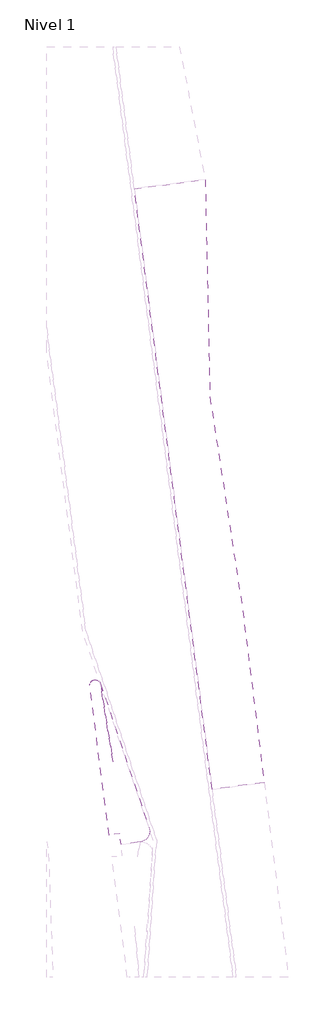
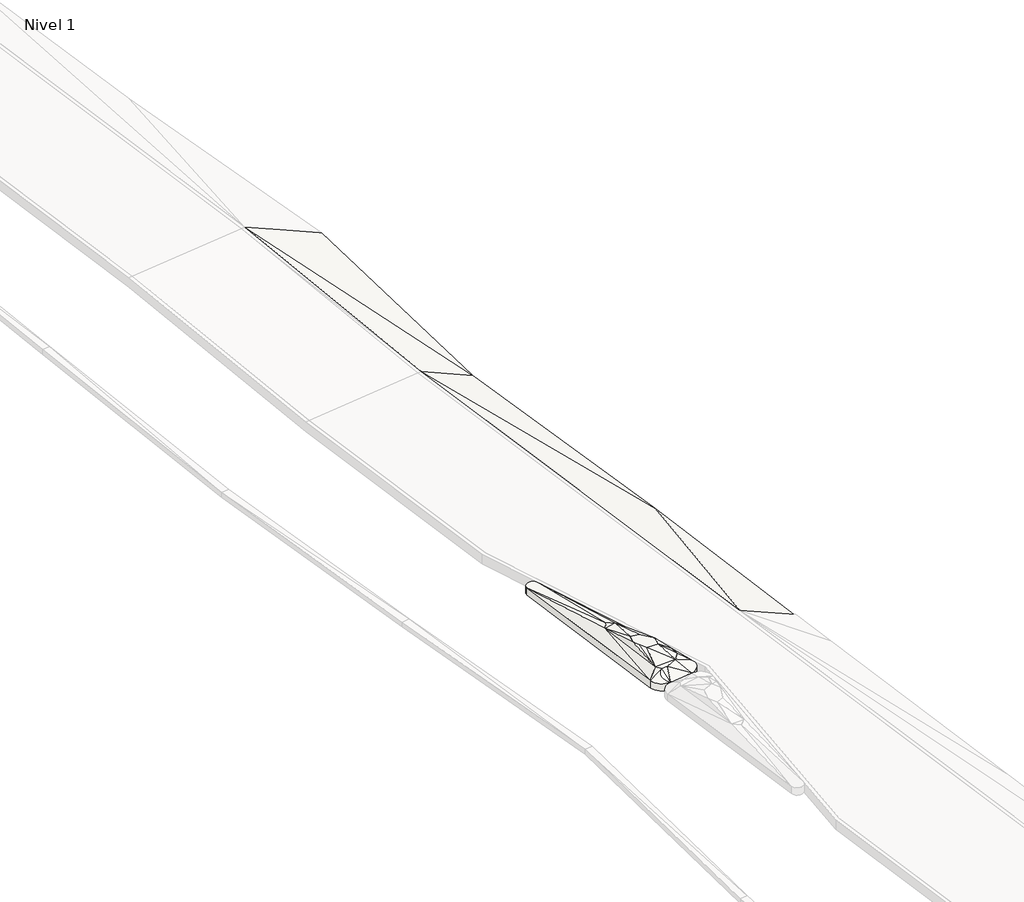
# One storey, part 31 of 45: 2 slabs.
"""IFC4 building model written with IfcOpenShell, lengths in millimetres."""

import ifcopenshell
import ifcopenshell.guid

model = None  # the IFC model being written
_history = None  # IfcOwnerHistory: only IFC2X3 demands one
_inside = {}  # id of a spatial element -> (the spatial element, [elements in it])
_under = {}  # id of a project, library or spatial element -> (it, [spatial elements below it])
_declared = {}  # id of a project -> (the project, [libraries it declares])
_typed = {}  # id of a type object -> (the type object, [elements of that type])
_made_of = {}  # id of a material, layer set ... -> (it, [elements and type objects made of it])


def new_model(schema):
    """Start an empty IFC model of exactly this schema.

    Asked for "IFC4X3", IfcOpenShell would pick the latest addendum, in which some entities
    have other attributes; the version numbers below select the first issue.
    IFC2X3 requires an IfcOwnerHistory on every rooted entity: one is made here for all.
    """
    global model, _history
    if schema == "IFC4X3":
        model = ifcopenshell.file(schema_version=(4, 3, 0, 0))
    else:
        model = ifcopenshell.file(schema=schema)
    _inside.clear()
    _under.clear()
    _declared.clear()
    _typed.clear()
    _made_of.clear()
    _history = None
    if model.schema == "IFC2X3":
        org = make("IfcOrganization", Name="unknown")
        user = make(
            "IfcPersonAndOrganization",
            ThePerson=make("IfcPerson", FamilyName="unknown"),
            TheOrganization=org,
        )
        app = make(
            "IfcApplication",
            ApplicationDeveloper=org,
            Version="unknown",
            ApplicationFullName="unknown",
            ApplicationIdentifier="unknown",
        )
        _history = make(
            "IfcOwnerHistory",
            OwningUser=user,
            OwningApplication=app,
            ChangeAction="ADDED",
            CreationDate=0,
        )
    return model


def make(cls, **values):
    """One entity of the class cls with the attributes given. An attribute that is None is left unset."""
    return model.create_entity(
        cls, **{name: value for name, value in values.items() if value is not None}
    )


def rooted(cls, **values):
    """An entity with a GlobalId (a new one), such as an element, a storey or a relation."""
    return make(cls, GlobalId=ifcopenshell.guid.new(), OwnerHistory=_history, **values)


def si_unit(unit_type, name, prefix=None):
    """IfcSIUnit, for example si_unit("LENGTHUNIT", "METRE", prefix="MILLI")."""
    return make("IfcSIUnit", UnitType=unit_type, Prefix=prefix, Name=name)


def assignment(units):
    """IfcUnitAssignment: the units of a project."""
    return None if units is None else make("IfcUnitAssignment", Units=units)


def point(xyz):
    """IfcCartesianPoint."""
    return None if xyz is None else make("IfcCartesianPoint", Coordinates=xyz)


def direction(xyz):
    """IfcDirection."""
    return None if xyz is None else make("IfcDirection", DirectionRatios=xyz)


def frame(location, z_axis=None, x_axis=None):
    """IfcAxis2Placement3D, a coordinate frame: its origin and axes. An axis left out is left unset."""
    return make(
        "IfcAxis2Placement3D",
        Location=point(location),
        Axis=direction(z_axis),
        RefDirection=direction(x_axis),
    )


def origin():
    """The frame at (0, 0, 0) with its axes left unset."""
    return frame((0.0, 0.0, 0.0))


def place(relative_to, where):
    """IfcLocalPlacement: puts the frame where relative to a parent placement (None: the world)."""
    return make(
        "IfcLocalPlacement", PlacementRelTo=relative_to, RelativePlacement=where
    )


def context(
    kind, dimensions, precision=None, world=None, true_north=None, identifier=None
):
    """IfcGeometricRepresentationContext, for example the 3D "Model" context."""
    return make(
        "IfcGeometricRepresentationContext",
        ContextIdentifier=identifier,
        ContextType=kind,
        CoordinateSpaceDimension=dimensions,
        Precision=precision,
        WorldCoordinateSystem=world,
        TrueNorth=true_north,
    )


def project(units=None, contexts=None):
    """IfcProject with its units and contexts."""
    return rooted(
        "IfcProject",
        Name="project",
        RepresentationContexts=contexts,
        UnitsInContext=assignment(units),
    )


def spatial(cls, under=None, at=None, **own):
    """A site, building, storey or space (cls), placed at a placement, below another one or the project."""
    s = rooted(cls, ObjectPlacement=at, **own)
    if under is not None:
        _under.setdefault(under.id(), (under, []))[1].append(s)
    return s


def polyline(points):
    """IfcPolyline through the points."""
    return make("IfcPolyline", Points=[point(p) for p in points])


def circle_curve(where, radius):
    """IfcCircle in the frame where."""
    return make("IfcCircle", Position=where, Radius=radius)


def faces_of(points, faces, orient=None, outer=None):
    """IfcFace entities. A face is a list of loops; a loop is a list of indices into points, from 0.

    orient and outer hold one flag for each loop. By default every Orientation is true, the
    first loop of a face is its IfcFaceOuterBound and the others are IfcFaceBound.
    """
    made = []
    for i, loops in enumerate(faces):
        bounds = []
        for j, loop in enumerate(loops):
            is_outer = j == 0 if outer is None else outer[i][j]
            bounds.append(
                make(
                    "IfcFaceOuterBound" if is_outer else "IfcFaceBound",
                    Bound=make("IfcPolyLoop", Polygon=[points[k] for k in loop]),
                    Orientation=True if orient is None else orient[i][j],
                )
            )
        made.append(make("IfcFace", Bounds=bounds))
    return made


def faceted_brep(points, faces, orient=None, outer=None, voids=None):
    """IfcFacetedBrep: a solid bounded by flat faces; with voids (closed shells), ...WithVoids."""
    shared = [point(p) for p in points]
    hull = make("IfcClosedShell", CfsFaces=faces_of(shared, faces, orient, outer))
    if voids is None:
        return make("IfcFacetedBrep", Outer=hull)
    return make(
        "IfcFacetedBrepWithVoids",
        Outer=hull,
        Voids=[
            make(cls, CfsFaces=faces_of(shared, fs, o, b)) for cls, fs, o, b in voids
        ],
    )


def shape(context_of_items, identifier, shape_type, items):
    """IfcShapeRepresentation: the items that make up one representation, for example the "Body"."""
    return make(
        "IfcShapeRepresentation",
        ContextOfItems=context_of_items,
        RepresentationIdentifier=identifier,
        RepresentationType=shape_type,
        Items=items,
    )


def made_of(thing, what):
    """Note that an element or type object is made of a material, layer set ...; save() writes the relation."""
    if what is not None:
        _made_of.setdefault(what.id(), (what, []))[1].append(thing)
    return thing


def element(
    cls,
    number,
    at=None,
    inside=None,
    cuts=None,
    type_object=None,
    material=None,
    context=None,
    identifier="Body",
    shape_type=None,
    held_by="IfcProductDefinitionShape",
    body=None,
    shapes=None,
    **own,
):
    """One element of the class cls, such as IfcWall. Its Tag is "e" and its number.

    at: its placement. inside: the storey or other place that contains it. cuts: it is an
    opening in that element (IfcRelVoidsElement). A single representation is given by context,
    identifier, shape_type and body (its items); several are given by shapes. held_by: the class
    of the entity that holds the representations. save() writes the other relations.
    """
    e = rooted(cls, Tag="e%d" % number, ObjectPlacement=at, **own)
    if body is not None:
        shapes = [shape(context, identifier, shape_type, body)]
    if shapes is not None:
        e.Representation = make(held_by, Representations=shapes)
    if inside is not None:
        _inside.setdefault(inside.id(), (inside, []))[1].append(e)
    if cuts is not None:
        rooted(
            "IfcRelVoidsElement", RelatingBuildingElement=cuts, RelatedOpeningElement=e
        )
    if type_object is not None:
        _typed.setdefault(type_object.id(), (type_object, []))[1].append(e)
    return made_of(e, material)


def aggregate(whole, parts):
    """IfcRelAggregates: a whole, such as a stair, and the parts it consists of."""
    return rooted("IfcRelAggregates", RelatingObject=whole, RelatedObjects=parts)


def save(model, path):
    """Write the relations noted so far, then the file.

    IfcRelAggregates (storeys below a building ...), IfcRelContainedInSpatialStructure (elements
    in a storey), IfcRelDefinesByType, IfcRelAssociatesMaterial and IfcRelDeclares: one each for
    every whole, place, type object, material and project.
    """
    for whole, parts in _under.values():
        aggregate(whole, parts)
    for where, things in _inside.values():
        rooted(
            "IfcRelContainedInSpatialStructure",
            RelatedElements=things,
            RelatingStructure=where,
        )
    for kind, things in _typed.values():
        rooted("IfcRelDefinesByType", RelatedObjects=things, RelatingType=kind)
    for what, things in _made_of.values():
        rooted("IfcRelAssociatesMaterial", RelatedObjects=things, RelatingMaterial=what)
    for by, libraries in _declared.values():
        rooted("IfcRelDeclares", RelatingContext=by, RelatedDefinitions=libraries)
    model.write(path)


def plane_surface(at):
    """IfcPlane: the flat surface through the origin of the frame at, square to its z axis."""
    return make("IfcPlane", Position=at)


def cylinder_surface(at, radius):
    """IfcCylindricalSurface: all points at the distance radius from the z axis of the frame at."""
    return make("IfcCylindricalSurface", Position=at, Radius=radius)


def revolved_surface(curve, axis_point, axis_direction):
    """IfcSurfaceOfRevolution: the curve turned about the line through axis_point along axis_direction."""
    return make(
        "IfcSurfaceOfRevolution",
        SweptCurve=make("IfcArbitraryOpenProfileDef", ProfileType="CURVE", Curve=curve),
        AxisPosition=make("IfcAxis1Placement", Location=point(axis_point), Axis=direction(axis_direction)),
    )


def spline_surface(u_degree, v_degree, points, u_multiplicities, v_multiplicities, u_knots, v_knots, weights=None):
    """IfcBSplineSurfaceWithKnots; with weights, IfcRationalBSplineSurfaceWithKnots. points: one row for each step in u."""
    own = dict(
        UDegree=u_degree,
        VDegree=v_degree,
        ControlPointsList=[[point(p) for p in row] for row in points],
        SurfaceForm="UNSPECIFIED",
        UClosed=False,
        VClosed=False,
        SelfIntersect=False,
        UMultiplicities=u_multiplicities,
        VMultiplicities=v_multiplicities,
        UKnots=u_knots,
        VKnots=v_knots,
        KnotSpec="UNSPECIFIED",
    )
    if weights is None:
        return make("IfcBSplineSurfaceWithKnots", **own)
    return make("IfcRationalBSplineSurfaceWithKnots", WeightsData=weights, **own)


def advanced_brep(points, edges, surfaces, faces):
    """IfcAdvancedBrep: a solid bounded by faces that lie on surfaces and meet in shared edges.

    An edge is (start, end): straight between two places in points (the first is 0);
    or (start, end, curve); or (start, end, curve, False) where it runs against its curve.
    A face is (place in surfaces, loops), or (place, loops, False) where it looks against
    its surface's normal. A loop lists edges by number (the first is 1), with a minus sign
    where the edge is run from its end to its start. The first loop is the outer one.
    """
    corners = [point(p) for p in points]
    vertices = [make("IfcVertexPoint", VertexGeometry=c) for c in corners]
    made = []
    for start, end, *more in edges:
        made.append(
            make(
                "IfcEdgeCurve",
                EdgeStart=vertices[start],
                EdgeEnd=vertices[end],
                EdgeGeometry=more[0] if more else make("IfcPolyline", Points=[corners[start], corners[end]]),
                SameSense=more[1] if len(more) > 1 else True,
            )
        )
    hull = []
    for where, loops, *sense in faces:
        bounds = []
        for j, loop in enumerate(loops):
            ring = [make("IfcOrientedEdge", EdgeElement=made[abs(k) - 1], Orientation=k > 0) for k in loop]
            bounds.append(
                make(
                    "IfcFaceOuterBound" if j == 0 else "IfcFaceBound",
                    Bound=make("IfcEdgeLoop", EdgeList=ring),
                    Orientation=True,
                )
            )
        hull.append(make("IfcAdvancedFace", Bounds=bounds, FaceSurface=surfaces[where], SameSense=sense[0] if sense else True))
    return make("IfcAdvancedBrep", Outer=make("IfcClosedShell", CfsFaces=hull))


model = new_model("IFC4")

# Units and contexts
model_context = context("Model", 3, world=origin())
ifc_project = project(units=[si_unit("LENGTHUNIT", "METRE", prefix="MILLI")], contexts=[model_context])

# Site, building, storey
site = spatial("IfcSite", under=ifc_project)
building = spatial("IfcBuilding", under=site)
storey = spatial("IfcBuildingStorey", under=building, Name="Nivel 1", Elevation=0.0)

# Slabs
placement = place(None, origin())
element("IfcSlab", 1, ObjectType="Lippia", at=placement, inside=storey, context=model_context, shape_type="Brep", body=[
    faceted_brep([(-163497.657802, 536312.8406676, 4450.0), (-163497.657802, 536312.8406676, 4750.0), (-165812.3386628, 554176.3191396, 4750.0), (-167097.3574022, 564093.4118054, 5250.0), (-167097.3574022, 564093.4118054, 4950.0), (-165812.3386628, 554176.3191396, 4450.0), (-163815.300386, 564518.6881351, 3595.2533167), (-163815.300386, 564518.6881351, 3295.2533167), (-163597.7292769, 554463.2797098, 3633.1770207), (-163597.7292769, 554463.2797098, 3333.1770207), (-162079.7961668, 544576.3671981, 3516.0810274), (-162079.7961668, 544576.3671981, 3216.0810274), (-161087.0359499, 536613.3772093, 3487.8944673), (-161087.0359499, 536613.3772093, 3187.8944673)], [[[0, 1, 2, 3, 4, 5]], [[4, 3, 6, 7]], [[7, 6, 8, 9]], [[9, 8, 10, 11]], [[11, 10, 12, 13]], [[13, 12, 1, 0]], [[12, 10, 1]], [[13, 0, 11]], [[8, 6, 3]], [[8, 3, 2]], [[10, 8, 2]], [[9, 4, 7]], [[9, 5, 4]], [[11, 5, 9]], [[10, 2, 1]], [[11, 0, 5]]]),
])
element("IfcSlab", 2, ObjectType="Lippia", at=placement, inside=storey, context=model_context, shape_type="AdvancedBrep", body=[
    advanced_brep(
    [(-166798.6000977, 533876.9169495, 4450.0), (-166798.6000977, 533876.9169495, 4750.0), (-167707.6724385, 533759.731371, 4750.0), (-167707.6724385, 533759.731371, 4450.0), (-166423.6854473, 534558.5813337, 4450.0), (-166423.6854473, 534558.5813337, 4750.0), (-168668.2171859, 541209.6391605, 4450.0), (-168668.2171859, 541209.6391605, 4750.0), (-168264.0364193, 534190.234392, 4450.0), (-168264.0364193, 534190.234392, 4750.0), (-169155.0795643, 541128.8050541, 4750.0), (-169155.0795643, 541128.8050541, 4450.0), (-167206.6825727, 535714.2505384, 5250.0), (-167568.1533182, 536167.1715239, 5250.0), (-167898.3866161, 536210.1476796, 5250.0), (-167985.9815142, 535885.1949736, 5250.0), (-167856.0068465, 535643.3390055, 5250.0), (-167717.7773914, 535364.1248136, 5250.0), (-167276.9629714, 535341.8701657, 5250.0), (-167107.4154063, 534495.1659395, 5050.0), (-167556.9647872, 534264.6082558, 5050.0), (-167206.6825727, 535714.2505384, 4950.0), (-167276.9629714, 535341.8701657, 4950.0), (-167717.7773914, 535364.1248136, 4950.0), (-167856.0068465, 535643.3390055, 4950.0), (-167985.9815142, 535885.1949736, 4950.0), (-167898.3866161, 536210.1476796, 4950.0), (-167568.1533182, 536167.1715239, 4950.0), (-167107.4154063, 534495.1659395, 4750.0), (-167556.9647872, 534264.6082558, 4750.0), (-167781.4931328, 537423.0408197, 5050.0), (-168262.1192562, 537301.0224725, 5050.0), (-167781.4931328, 537423.0408197, 4750.0), (-168262.1192562, 537301.0224725, 4750.0), (-167919.2611764, 534457.1480273, 5050.0), (-167768.3846137, 534256.0317155, 5050.0), (-167919.2611764, 534457.1480273, 4750.0), (-167768.3846137, 534256.0317155, 4750.0), (-166867.4169066, 534764.5252168, 5050.0), (-166867.4169066, 534764.5252168, 4750.0), (-166871.1557481, 535125.2740508, 5050.0), (-166871.1557481, 535125.2740508, 4750.0), (-168075.4280907, 537573.2728327, 5050.0), (-168075.4280907, 537573.2728327, 4750.0)],
    [
        (0, 1),
        (1, 2),
        (2, 3),
        (3, 0),
        (4, 5),
        (5, 1, circle_curve(frame((-166886.4102384, 534369.1459406, 4750.0), z_axis=(0.0, 0.0, -1.0), x_axis=(0.41419378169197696, 0.9101887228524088, 0.0)), 500.0000005)),
        (0, 4, circle_curve(frame((-166886.4102384, 534369.1459406, 4450.0), z_axis=(0.0, 0.0, 1.0), x_axis=(0.41419378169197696, 0.9101887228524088, 0.0)), 500.0000005)),
        (6, 7),
        (7, 5),
        (4, 6),
        (8, 9),
        (9, 10),
        (10, 11),
        (11, 8),
        (2, 9, circle_curve(frame((-167768.3846137, 534256.0317155, 4750.0), z_axis=(0.0, 0.0, -1.0), x_axis=(0.41419378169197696, 0.9101887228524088, 0.0)), 500.0000001)),
        (8, 3, circle_curve(frame((-167768.3846137, 534256.0317155, 4450.0), z_axis=(0.0, 0.0, 1.0), x_axis=(0.41419378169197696, 0.9101887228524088, 0.0)), 500.0000001)),
        (12, 13),
        (13, 14),
        (14, 15),
        (15, 16),
        (16, 17),
        (17, 18),
        (18, 12),
        (5, 19),
        (19, 1),
        (1, 20),
        (20, 2),
        (21, 22),
        (22, 23),
        (23, 24),
        (24, 25),
        (25, 26),
        (26, 27),
        (27, 21),
        (0, 28),
        (28, 4),
        (3, 29),
        (29, 0),
        (13, 30),
        (30, 14),
        (14, 31),
        (31, 15),
        (26, 32),
        (32, 27),
        (25, 33),
        (33, 26),
        (30, 31),
        (12, 30),
        (33, 32),
        (32, 21),
        (34, 9),
        (9, 35),
        (35, 34),
        (16, 34),
        (34, 17),
        (36, 37),
        (37, 8),
        (8, 36),
        (23, 36),
        (36, 24),
        (2, 35),
        (35, 20),
        (20, 19),
        (19, 34),
        (37, 3),
        (36, 28),
        (28, 29),
        (29, 37),
        (19, 17),
        (19, 18),
        (5, 38),
        (38, 19),
        (23, 28),
        (22, 28),
        (28, 39),
        (39, 4),
        (40, 18),
        (18, 38),
        (38, 40),
        (40, 5),
        (5, 30),
        (30, 40),
        (41, 39),
        (39, 22),
        (22, 41),
        (41, 32),
        (32, 4),
        (4, 41),
        (34, 15),
        (31, 34),
        (31, 9),
        (36, 33),
        (25, 36),
        (8, 33),
        (40, 12),
        (21, 41),
        (42, 31),
        (30, 42),
        (43, 32),
        (33, 43),
        (10, 7, circle_curve(frame((-168905.0810521, 541129.6672379, 4750.0), z_axis=(0.0, 0.0, -1.0), x_axis=(0.41419378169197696, 0.9101887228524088, 0.0)), 249.999999)),
        (6, 11, circle_curve(frame((-168905.0810521, 541129.6672379, 4450.0), z_axis=(0.0, 0.0, 1.0), x_axis=(0.41419378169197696, 0.9101887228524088, 0.0)), 249.999999)),
        (31, 10),
        (42, 10),
        (42, 7),
        (30, 7),
        (11, 33),
        (11, 43),
        (6, 43),
        (6, 32),
    ],
    [
        plane_surface(frame((-166798.6000977, 533876.9169495, 4450.0), z_axis=(0.1278489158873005, -0.9917936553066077, 0.0), x_axis=(0.0, 0.0, 1.0))),
        cylinder_surface(frame((-166886.4102384, 534369.1459406, 4750.0), z_axis=(0.0, 0.0, -1.0000000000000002), x_axis=(0.41419378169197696, 0.9101887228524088, 0.0)), 500.0000005),
        plane_surface(frame((-168668.2171859, 541209.6391605, 4450.0), z_axis=(0.947500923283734, 0.3197530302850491, 0.0), x_axis=(0.0, 0.0, 1.0))),
        plane_surface(frame((-168264.0364193, 534190.234392, 4450.0), z_axis=(-0.991854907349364, -0.12737284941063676, 0.0), x_axis=(0.0, 0.0, 1.0))),
        cylinder_surface(frame((-167768.3846137, 534256.0317155, 4750.0), z_axis=(0.0, 0.0, -1.0000000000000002), x_axis=(0.41419378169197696, 0.9101887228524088, 0.0)), 500.0000001),
        plane_surface(frame((-167644.2787472, 535760.8712429, 5250.0), z_axis=(0.0, 0.0, 1.0000000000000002), x_axis=(-0.6237833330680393, 0.7815973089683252, 0.0))),
        spline_surface(2, 1, [[(-166798.6000977, 533876.9169495, 4750.0), (-167107.4154063, 534495.1659395, 5050.0)], [(-166563.42597670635, 533918.8703350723, 4750.0), (-167107.4154063, 534495.1659395, 5050.0)], [(-166448.30207712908, 534128.1869409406, 4750.0), (-167107.4154063, 534495.1659395, 5050.0)], [(-166333.1781775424, 534337.5035467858, 4750.0), (-167107.4154063, 534495.1659395, 5050.0)], [(-166423.6854473, 534558.5813337, 4750.0), (-167107.4154063, 534495.1659395, 5050.0)]], [3, 2, 3], [2, 2], [0.0, 1.0, 2.0], [0.0, 1.0], weights=[[1.0, 1.0], [0.9023052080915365, 0.9023052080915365], [1.0, 1.0], [0.9023052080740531, 0.9023052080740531], [1.0, 1.0]]),
        plane_surface(frame((-167354.4124411, 533967.0855254, 4850.0), z_axis=(0.0676112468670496, -0.5244972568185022, 0.8487233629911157), x_axis=(0.9917936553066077, 0.1278489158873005, 0.0))),
        plane_surface(frame((-167644.2787472, 535760.8712429, 4950.0), z_axis=(0.0, 0.0, -1.0000000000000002), x_axis=(-0.6237833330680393, 0.7815973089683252, 0.0))),
        spline_surface(1, 2, [[(-166798.6000977, 533876.9169495, 4450.0), (-166563.42597670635, 533918.8703350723, 4450.0), (-166448.30207712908, 534128.1869409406, 4450.0), (-166333.1781775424, 534337.5035467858, 4450.0), (-166423.6854473, 534558.5813337, 4450.0)], [(-167107.4154063, 534495.1659395, 4750.0), (-167107.4154063, 534495.1659395, 4750.0), (-167107.4154063, 534495.1659395, 4750.0), (-167107.4154063, 534495.1659395, 4750.0), (-167107.4154063, 534495.1659395, 4750.0)]], [2, 2], [3, 2, 3], [0.0, 1.0], [0.0, 1.0, 2.0], weights=[[1.0, 0.9023052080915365, 1.0, 0.9023052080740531, 1.0], [1.0, 0.9023052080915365, 1.0, 0.9023052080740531, 1.0]]),
        plane_surface(frame((-167354.4124411, 533967.0855254, 4550.0), z_axis=(-0.0676112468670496, 0.5244972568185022, -0.8487233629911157), x_axis=(0.9917936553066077, 0.1278489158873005, 0.0))),
        plane_surface(frame((-167749.3443557, 536600.1200077, 5183.3333333), z_axis=(0.020913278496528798, 0.16069983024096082, 0.9867817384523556), x_axis=(0.9916380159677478, -0.1290505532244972, 0.0))),
        plane_surface(frame((-168048.8291288, 536465.4550419, 5183.3333333), z_axis=(-0.29000874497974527, 0.07817533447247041, 0.9538257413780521), x_axis=(0.260271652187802, 0.9655354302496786, 0.0))),
        plane_surface(frame((-167749.3443557, 536600.1200077, 4883.3333333), z_axis=(-0.020913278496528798, -0.16069983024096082, -0.9867817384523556), x_axis=(0.9916380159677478, -0.1290505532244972, 0.0))),
        plane_surface(frame((-168048.8291288, 536465.4550419, 4883.3333333), z_axis=(0.29000874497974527, -0.07817533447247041, -0.9538257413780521), x_axis=(0.260271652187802, 0.9655354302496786, 0.0))),
        plane_surface(frame((-167980.666335, 536978.0703239, 5116.6666667), z_axis=(-0.04227442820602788, 0.16651753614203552, 0.9851318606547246), x_axis=(0.3116337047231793, -0.9346242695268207, 0.17135317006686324))),
        plane_surface(frame((-167518.7763412, 536434.8209607, 5183.3333333), z_axis=(0.24113428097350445, 0.19244634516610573, 0.9512195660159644), x_axis=(0.16544823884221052, -0.9739455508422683, 0.15510301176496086))),
        plane_surface(frame((-167980.666335, 536978.0703239, 4816.6666667), z_axis=(0.04227442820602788, -0.16651753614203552, -0.9851318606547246), x_axis=(0.3116337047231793, -0.9346242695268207, 0.17135317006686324))),
        plane_surface(frame((-167518.7763412, 536434.8209607, 4883.3333333), z_axis=(-0.24113428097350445, -0.19244634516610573, -0.9512195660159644), x_axis=(0.16544823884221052, -0.9739455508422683, 0.15510301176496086))),
        plane_surface(frame((-167983.8940698, 534301.1380449, 4950.0), z_axis=(-0.45345880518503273, -0.34018277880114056, 0.8238026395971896), x_axis=(-0.6514326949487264, -0.5043177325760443, -0.5668324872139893))),
        plane_surface(frame((-167831.0151381, 535154.8706155, 5183.3333333), z_axis=(-0.29081868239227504, -0.143974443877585, 0.945883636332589), x_axis=(-0.4436726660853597, 0.8961889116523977, 0.0))),
        plane_surface(frame((-167983.8940698, 534301.1380449, 4650.0), z_axis=(0.45345880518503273, 0.34018277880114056, -0.8238026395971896), x_axis=(-0.6514326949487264, -0.5043177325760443, -0.5668324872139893))),
        plane_surface(frame((-167831.0151381, 535154.8706155, 4883.3333333), z_axis=(0.29081868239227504, 0.143974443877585, -0.945883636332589), x_axis=(-0.4436726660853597, 0.8961889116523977, 0.0))),
        revolved_surface(polyline([(-167768.3846137, 534256.0317155, 5050.0), (-168264.0364193, 534190.234392, 4750.0)]), (-167768.3846137, 534256.0317155, 5050.0), (0.0, 0.0, -1.0)),
        plane_surface(frame((-167588.0064959, 534368.2384845, 5050.0), z_axis=(0.0, 0.0, 1.0), x_axis=(0.9991781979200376, 0.0405330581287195, 0.0))),
        plane_surface(frame((-167677.6739465, 534093.4571141, 4950.0), z_axis=(0.020904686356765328, -0.5153202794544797, 0.8567426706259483), x_axis=(0.10412052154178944, -0.851148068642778, -0.5144957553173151))),
        revolved_surface(polyline([(-167707.6724385, 533759.731371, 4450.0), (-167768.3846137, 534256.0317155, 4750.0)]), (-167768.3846137, 534256.0317155, 4750.0), (0.0, 0.0, -1.0)),
        plane_surface(frame((-167588.0064959, 534368.2384845, 4750.0), z_axis=(0.0, 0.0, -1.0), x_axis=(0.9991781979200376, 0.0405330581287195, 0.0))),
        plane_surface(frame((-167677.6739465, 534093.4571141, 4650.0), z_axis=(-0.020904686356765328, 0.5153202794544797, -0.8567426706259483), x_axis=(0.10412052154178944, -0.851148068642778, -0.5144957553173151))),
        plane_surface(frame((-167581.484658, 534772.1462601, 5116.6666667), z_axis=(0.010184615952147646, -0.21748530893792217, 0.9760104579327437), x_axis=(-0.5648519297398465, 0.8041672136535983, 0.18508751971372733))),
        plane_surface(frame((-167367.3852564, 535067.0536396, 5183.3333333), z_axis=(-0.011717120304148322, -0.23208974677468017, 0.9726238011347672), x_axis=(-0.19128273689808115, 0.9552475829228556, 0.22563902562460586))),
        plane_surface(frame((-166799.5059201, 534606.09083, 4950.0), z_axis=(0.4027434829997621, -0.3588435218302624, 0.8420386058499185), x_axis=(0.9124447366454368, 0.0846285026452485, -0.40035311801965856))),
        plane_surface(frame((-167154.3267638, 534212.2303816, 4950.0), z_axis=(0.1817258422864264, -0.35433536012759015, 0.9172906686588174), x_axis=(0.8398215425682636, -0.42933369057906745, -0.3322233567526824))),
        plane_surface(frame((-167581.484658, 534772.1462601, 4816.6666667), z_axis=(-0.010184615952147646, 0.21748530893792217, -0.9760104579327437), x_axis=(-0.5648519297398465, 0.8041672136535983, 0.18508751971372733))),
        plane_surface(frame((-167367.3852564, 535067.0536396, 4883.3333333), z_axis=(0.011717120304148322, 0.23208974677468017, -0.9726238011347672), x_axis=(-0.19128273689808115, 0.9552475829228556, 0.22563902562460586))),
        plane_surface(frame((-166799.5059201, 534606.09083, 4650.0), z_axis=(-0.4027434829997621, 0.3588435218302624, -0.8420386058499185), x_axis=(0.9124447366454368, 0.0846285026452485, -0.40035311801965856))),
        plane_surface(frame((-167154.3267638, 534212.2303816, 4650.0), z_axis=(-0.1817258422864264, 0.35433536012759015, -0.9172906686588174), x_axis=(0.8398215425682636, -0.42933369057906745, -0.3322233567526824))),
        plane_surface(frame((-167005.178542, 535077.2231444, 5116.6666667), z_axis=(0.44404235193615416, 0.004602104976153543, 0.8959939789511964), x_axis=(-0.8090403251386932, 0.4318183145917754, 0.3987313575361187))),
        plane_surface(frame((-167025.4447761, 535702.2987348, 4950.0), z_axis=(0.7648784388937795, 0.30303225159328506, 0.5684473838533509), x_axis=(0.5722845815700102, -0.724762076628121, -0.38367993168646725))),
        plane_surface(frame((-167005.178542, 535077.2231444, 4816.6666667), z_axis=(-0.44404235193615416, -0.004602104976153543, -0.8959939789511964), x_axis=(-0.8090403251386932, 0.4318183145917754, 0.3987313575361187))),
        plane_surface(frame((-167025.4447761, 535702.2987348, 4650.0), z_axis=(-0.7648784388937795, -0.30303225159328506, -0.5684473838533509), x_axis=(0.5722845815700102, -0.724762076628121, -0.38367993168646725))),
        plane_surface(frame((-167083.9317614, 534867.1871073, 5116.6666667), z_axis=(0.20789891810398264, -0.18523746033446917, 0.9604504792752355), x_axis=(-0.5567778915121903, 0.7849004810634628, 0.2719000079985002))),
        plane_surface(frame((-167083.9317614, 534867.1871073, 4816.6666667), z_axis=(-0.20789891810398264, 0.18523746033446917, -0.9604504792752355), x_axis=(-0.5567778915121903, 0.7849004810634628, 0.2719000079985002))),
        plane_surface(frame((-168055.7873156, 535881.1218245, 5116.6666667), z_axis=(-0.8795981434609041, -0.10604453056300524, 0.4637474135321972), x_axis=(-0.04622036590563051, 0.9892763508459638, 0.13854955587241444))),
        plane_surface(frame((-167920.4165124, 535328.5606688, 5183.3333333), z_axis=(-0.271522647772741, -0.14591769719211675, 0.9513061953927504), x_axis=(0.05251084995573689, 0.9847214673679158, 0.16603084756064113))),
        plane_surface(frame((-168148.472284, 535316.1349639, 4950.0), z_axis=(-0.6209666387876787, -0.07486386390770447, 0.7802536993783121), x_axis=(-0.0006134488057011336, -0.9953817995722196, -0.09599321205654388))),
        plane_surface(frame((-168055.7873156, 535881.1218245, 4816.6666667), z_axis=(0.8795981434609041, 0.10604453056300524, -0.4637474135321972), x_axis=(-0.04622036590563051, 0.9892763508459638, 0.13854955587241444))),
        plane_surface(frame((-167920.4165124, 535328.5606688, 4883.3333333), z_axis=(0.271522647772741, 0.14591769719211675, -0.9513061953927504), x_axis=(0.05251084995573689, 0.9847214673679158, 0.16603084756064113))),
        plane_surface(frame((-168148.472284, 535316.1349639, 4650.0), z_axis=(0.6209666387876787, 0.07486386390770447, -0.7802536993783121), x_axis=(-0.0006134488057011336, -0.9953817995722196, -0.09599321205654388))),
        plane_surface(frame((-167118.2670974, 535393.7982516, 5183.3333333), z_axis=(0.4074399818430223, -0.07689729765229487, 0.909988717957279), x_axis=(-0.18545869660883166, -0.9826520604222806, 0.0))),
        plane_surface(frame((-167286.4438179, 536087.521803, 5116.6666667), z_axis=(0.8397727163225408, 0.33270413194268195, 0.42905680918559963), x_axis=(0.3168854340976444, -0.9420334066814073, 0.11025734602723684))),
        plane_surface(frame((-167118.2670974, 535393.7982516, 4883.3333333), z_axis=(-0.4074399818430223, 0.07689729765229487, -0.909988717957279), x_axis=(-0.18545869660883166, -0.9826520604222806, 0.0))),
        plane_surface(frame((-167286.4438179, 536087.521803, 4816.6666667), z_axis=(-0.8397727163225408, -0.33270413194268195, -0.42905680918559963), x_axis=(0.3168854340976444, -0.9420334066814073, 0.11025734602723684))),
        plane_surface(frame((-168039.6801599, 537432.445375, 5050.0), z_axis=(0.0, 0.0, 1.0), x_axis=(-0.5655390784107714, -0.8247214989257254, 0.0))),
        plane_surface(frame((-166720.7527007, 534816.1268671, 4950.0), z_axis=(0.56193412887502, 0.005823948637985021, 0.8271614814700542), x_axis=(0.7732455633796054, -0.35887740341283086, -0.5227794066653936))),
        plane_surface(frame((-168039.6801599, 537432.445375, 4750.0), z_axis=(0.0, 0.0, -1.0), x_axis=(-0.5655390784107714, -0.8247214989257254, 0.0))),
        plane_surface(frame((-166720.7527007, 534816.1268671, 4650.0), z_axis=(-0.56193412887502, -0.005823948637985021, -0.8271614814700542), x_axis=(0.7732455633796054, -0.35887740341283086, -0.5227794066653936))),
        cylinder_surface(frame((-168905.0810521, 541129.6672379, 4750.0), z_axis=(0.0, 0.0, -1.0000000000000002), x_axis=(0.41419378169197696, 0.9101887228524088, 0.0)), 249.999999),
        plane_surface(frame((-168560.4117466, 537540.0206395, 4850.0), z_axis=(-0.596895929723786, -0.07665267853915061, 0.7986486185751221), x_axis=(0.12737284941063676, -0.991854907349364, 0.0))),
        plane_surface(frame((-168497.5423038, 538667.7001198, 4950.0), z_axis=(-0.08482829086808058, 0.05816959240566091, 0.9946961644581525), x_axis=(0.22652516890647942, -0.9710275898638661, 0.07610366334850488))),
        spline_surface(2, 1, [[(-168668.2171859, 541209.6391605, 4750.0), (-168075.4280907, 537573.2728327, 5050.0)], [(-168736.24341487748, 541411.1218193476, 4750.0), (-168075.4280907, 537573.2728327, 5050.0)], [(-168946.02818780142, 541376.2911045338, 4750.0), (-168075.4280907, 537573.2728327, 5050.0)], [(-169155.81296072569, 541341.4603898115, 4750.0), (-168075.4280907, 537573.2728327, 5050.0)], [(-169155.0795643, 541128.8050541, 4750.0), (-168075.4280907, 537573.2728327, 5050.0)]], [3, 2, 3], [2, 2], [0.0, 1.0, 2.0], [0.0, 1.0], weights=[[1.0, 1.0], [0.7617038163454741, 0.7617038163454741], [1.0, 1.0], [0.7617038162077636, 0.7617038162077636], [1.0, 1.0]]),
        plane_surface(frame((-168175.0461365, 538735.3176043, 4950.0), z_axis=(0.04576564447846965, 0.08954231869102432, 0.9949309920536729), x_axis=(0.8904364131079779, -0.45510767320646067, 0.0))),
        plane_surface(frame((-167624.4652553, 537730.420438, 4850.0), z_axis=(0.5961501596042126, 0.20118272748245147, 0.777258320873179), x_axis=(0.4264279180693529, -0.8996012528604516, -0.09421685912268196))),
        plane_surface(frame((-168560.4117466, 537540.0206395, 4550.0), z_axis=(0.596895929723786, 0.07665267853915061, -0.7986486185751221), x_axis=(0.12737284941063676, -0.991854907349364, 0.0))),
        plane_surface(frame((-168497.5423038, 538667.7001198, 4650.0), z_axis=(0.08482829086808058, -0.05816959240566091, -0.9946961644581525), x_axis=(0.22652516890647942, -0.9710275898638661, 0.07610366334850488))),
        spline_surface(1, 2, [[(-168668.2171859, 541209.6391605, 4450.0), (-168736.24341487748, 541411.1218193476, 4450.0), (-168946.02818780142, 541376.2911045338, 4450.0), (-169155.81296072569, 541341.4603898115, 4450.0), (-169155.0795643, 541128.8050541, 4450.0)], [(-168075.4280907, 537573.2728327, 4750.0), (-168075.4280907, 537573.2728327, 4750.0), (-168075.4280907, 537573.2728327, 4750.0), (-168075.4280907, 537573.2728327, 4750.0), (-168075.4280907, 537573.2728327, 4750.0)]], [2, 2], [3, 2, 3], [0.0, 1.0], [0.0, 1.0, 2.0], weights=[[1.0, 0.7617038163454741, 1.0, 0.7617038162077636, 1.0], [1.0, 0.7617038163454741, 1.0, 0.7617038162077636, 1.0]]),
        plane_surface(frame((-168175.0461365, 538735.3176043, 4650.0), z_axis=(-0.04576564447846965, -0.08954231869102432, -0.9949309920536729), x_axis=(0.8904364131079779, -0.45510767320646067, 0.0))),
        plane_surface(frame((-167624.4652553, 537730.420438, 4550.0), z_axis=(-0.5961501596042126, -0.20118272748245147, -0.777258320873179), x_axis=(0.4264279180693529, -0.8996012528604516, -0.09421685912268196))),
    ],
    [
        (0, [[1, 2, 3, 4]]),
        (1, [[5, 6, -1, 7]]),
        (2, [[8, 9, -5, 10]]),
        (3, [[11, 12, 13, 14]]),
        (4, [[-3, 15, -11, 16]]),
        (5, [[17, 18, 19, 20, 21, 22, 23]]),
        (6, [[-6, 24, 25]]),
        (7, [[-2, 26, 27]]),
        (8, [[28, 29, 30, 31, 32, 33, 34]]),
        (9, [[35, 36, -7]]),
        (10, [[37, 38, -4]]),
        (11, [[-18, 39, 40]]),
        (12, [[-19, 41, 42]]),
        (13, [[43, 44, -33]]),
        (14, [[45, 46, -32]]),
        (15, [[-41, -40, 47]]),
        (16, [[-39, -17, 48]]),
        (17, [[49, -43, -46]]),
        (18, [[50, -34, -44]]),
        (19, [[51, 52, 53]]),
        (20, [[-21, 54, 55]]),
        (21, [[56, 57, 58]]),
        (22, [[59, 60, -30]]),
        (23, [[-52, -15, 61]]),
        (24, [[62, 63, 64, -53]]),
        (25, [[-61, -27, -62]]),
        (26, [[65, -16, -57]]),
        (27, [[-56, 66, 67, 68]]),
        (28, [[-68, -37, -65]]),
        (29, [[69, -55, -64]]),
        (30, [[70, -22, -69]]),
        (31, [[-24, 71, 72]]),
        (32, [[-26, -25, -63]]),
        (33, [[-66, -59, 73]]),
        (34, [[-73, -29, 74]]),
        (35, [[75, 76, -36]]),
        (36, [[-67, -35, -38]]),
        (37, [[77, 78, 79]]),
        (38, [[80, 81, 82]]),
        (39, [[83, 84, 85]]),
        (40, [[86, 87, 88]]),
        (41, [[-78, -70, -72]]),
        (42, [[-75, -74, -84]]),
        (43, [[89, -42, 90]]),
        (44, [[-54, -20, -89]]),
        (45, [[91, -51, -90]]),
        (46, [[92, -45, 93]]),
        (47, [[-93, -31, -60]]),
        (48, [[-92, -58, 94]]),
        (49, [[-23, -77, 95]]),
        (50, [[-48, -95, -82]]),
        (51, [[96, -85, -28]]),
        (52, [[-86, -96, -50]]),
        (53, [[97, -47, 98]]),
        (54, [[-71, -80, -79]]),
        (55, [[99, -49, 100]]),
        (56, [[-83, -88, -76]]),
        (57, [[-13, 101, -8, 102]]),
        (58, [[-12, -91, 103]]),
        (59, [[-103, -97, 104]]),
        (60, [[-104, 105, -101]]),
        (61, [[-98, 106, -105]]),
        (62, [[-81, -9, -106]]),
        (63, [[107, -94, -14]]),
        (64, [[108, -100, -107]]),
        (65, [[-102, 109, -108]]),
        (66, [[-109, 110, -99]]),
        (67, [[-110, -10, -87]]),
    ],
),
])

save(model, "model.ifc")
